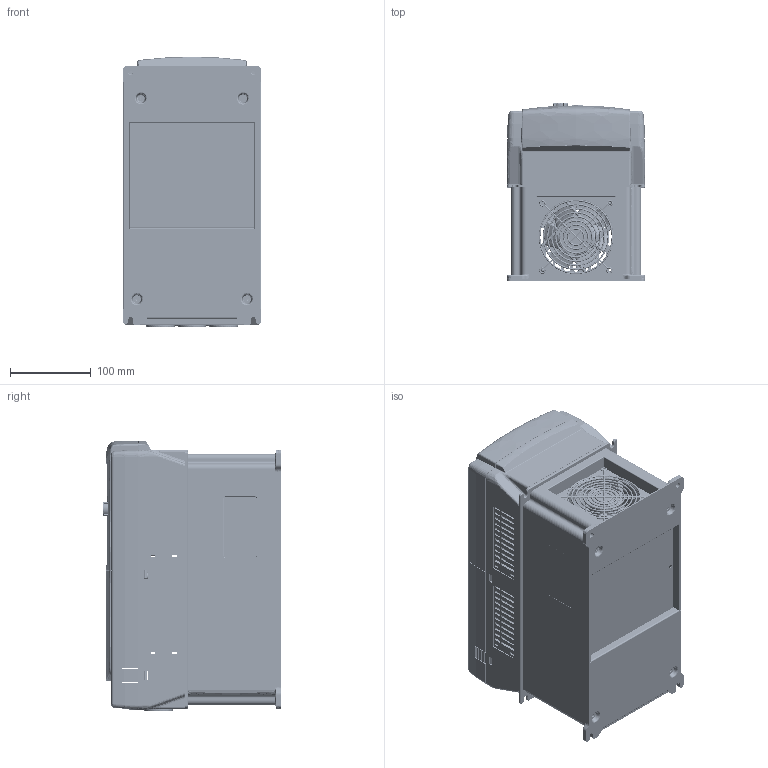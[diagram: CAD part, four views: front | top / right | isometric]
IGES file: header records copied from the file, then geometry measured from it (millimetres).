
Start section: SolidWorks IGES file using analytic representation for surfaces
Global section: file name: Z:\Products\VFD\UMI-B5\B5\UMI-[0075~0110]EU-B5_UMI-[0040~0055]CU-B5\CAD FILES\3D CAD Files\UMI-[0075~0110]EU-B5_UMI-[0040~0055]CU-B5.IGS; native system: SolidWorks 2017; preprocessor: SolidWorks 2017; author: LaorB; date: 200329.180622; units: millimetre
Bounding box: 170 x 219.35 x 334.28 mm (x, y, z)
Surface area: 1114880 mm2 (no closed solid volume)
Topology: 0 solids, 0 shells, 8226 faces, 75214 edges, 75135 vertices
Faces by surface type: bspline 6353, revolution 1873
